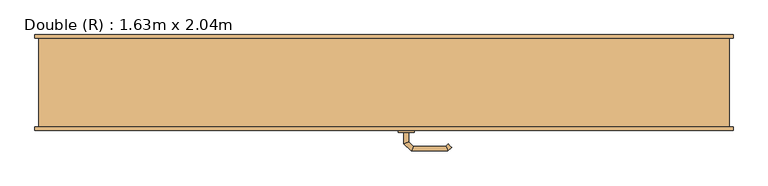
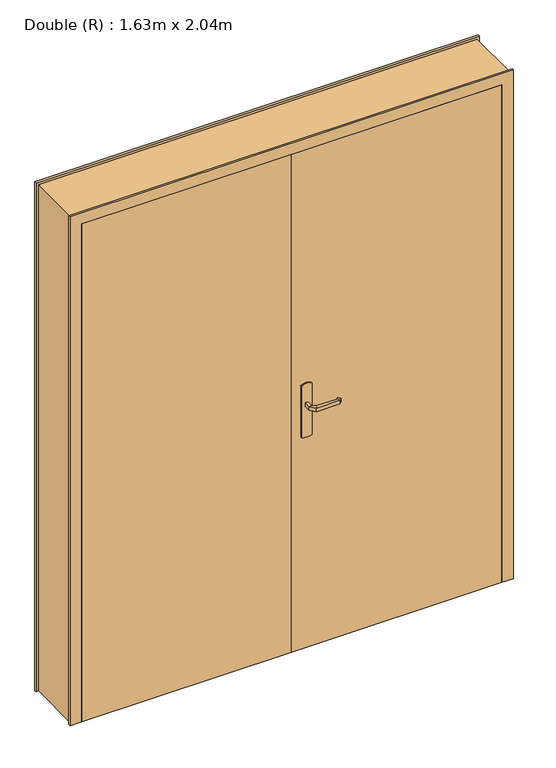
"""IFC4 building model written with IfcOpenShell, lengths in millimetres: door geometry, Double (R) : 1.63m x 2.04m."""

from ifc_helpers import new_model, si_unit, point, frame, frame_2d, origin, origin_with_axes, place, context, project, spatial, polyline, circle_curve, ellipse_curve, trimmed, segment, composite_curve, outline, extrude, faceted_brep, source, transform, mapped, element, save
from ifc_brep_helpers import plane_surface, cylinder_surface, advanced_brep


def double_r_1_63m_x_2_04m_f9d8fe67(model_context):
    return source(origin(), model_context, "Body", "SolidModel", [
        advanced_brep(
        [(61.0, -73.0, 993.0), (61.0, -73.0, 1007.0), (49.0, -73.0, 1007.0), (49.0, -73.0, 993.0), (61.0, -50.5147955, 993.0), (61.0, -50.5147955, 1007.0), (49.0, -45.5442327, 1007.0), (49.0, -45.5442327, 993.0), (72.4852814, -39.0295141, 993.0), (72.4852814, -39.0295141, 1007.0), (67.5147186, -27.0295141, 1007.0), (67.5147186, -27.0295141, 993.0), (152.5605023, -39.0295141, 993.0), (152.5605023, -39.0295141, 1007.0), (157.531065, -27.0295141, 1007.0), (157.531065, -27.0295141, 993.0), (157.8742108, -44.3432226, 993.0), (166.3594922, -35.8579412, 993.0), (166.3594922, -35.8579412, 1007.0), (157.8742108, -44.3432226, 1007.0)],
        [
            (0, 1),
            (1, 2, circle_curve(frame((55.0, -73.0, 986.9542278), z_axis=(0.0, -1.0, 0.0), x_axis=(-1.0, 0.0, 0.0)), 20.9244589)),
            (2, 3),
            (3, 0, circle_curve(frame((55.0, -73.0, 1013.0457722), z_axis=(0.0, -1.0, 0.0), x_axis=(-1.0, 0.0, 0.0)), 20.9244589)),
            (0, 4),
            (4, 5),
            (5, 1),
            (5, 6, ellipse_curve(frame((55.0, -48.0295141, 986.9542278), z_axis=(-0.38268343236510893, -0.9238795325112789, 0.0), x_axis=(0.9238795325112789, -0.3826834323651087, 0.0)), 22.6484711, 20.9244589)),
            (6, 2),
            (6, 7),
            (7, 3),
            (7, 4, ellipse_curve(frame((55.0, -48.0295141, 1013.0457722), z_axis=(-0.38268343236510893, -0.9238795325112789, 0.0), x_axis=(0.9238795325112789, -0.3826834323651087, 0.0)), 22.6484711, 20.9244589)),
            (4, 8),
            (8, 9),
            (9, 5),
            (9, 10, ellipse_curve(frame((70.0, -33.0295141, 986.9542278), z_axis=(-0.9238795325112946, -0.38268343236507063, 0.0), x_axis=(0.3826834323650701, -0.9238795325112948, 0.0)), 22.6484711, 20.9244589)),
            (10, 6),
            (10, 11),
            (11, 7),
            (11, 8, ellipse_curve(frame((70.0, -33.0295141, 1013.0457722), z_axis=(-0.9238795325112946, -0.38268343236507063, 0.0), x_axis=(0.3826834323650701, -0.9238795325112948, 0.0)), 22.6484711, 20.9244589)),
            (8, 12),
            (12, 13),
            (13, 9),
            (13, 14, ellipse_curve(frame((155.0457837, -33.0295141, 986.9542278), z_axis=(-0.9238795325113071, 0.38268343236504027, 0.0), x_axis=(-0.38268343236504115, -0.9238795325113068, 0.0)), 22.6484711, 20.9244589)),
            (14, 10),
            (14, 15),
            (15, 11),
            (15, 12, ellipse_curve(frame((155.0457837, -33.0295141, 1013.0457722), z_axis=(-0.9238795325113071, 0.38268343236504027, 0.0), x_axis=(-0.38268343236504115, -0.9238795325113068, 0.0)), 22.6484711, 20.9244589)),
            (16, 17, circle_curve(frame((162.1168515, -40.1005819, 1013.0457722), z_axis=(0.7071067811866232, -0.7071067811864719, 0.0), x_axis=(0.7071067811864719, 0.7071067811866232, 0.0)), 20.9244589)),
            (17, 18),
            (18, 19, circle_curve(frame((162.1168515, -40.1005819, 986.9542278), z_axis=(0.7071067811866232, -0.7071067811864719, 0.0), x_axis=(0.7071067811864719, 0.7071067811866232, 0.0)), 20.9244589)),
            (19, 16),
            (12, 16),
            (19, 13),
            (18, 14),
            (17, 15),
        ],
        [
            plane_surface(frame((45.7804555, -73.0, 1000.0), z_axis=(0.0, -1.0, 0.0), x_axis=(0.0, 0.0, 1.0))),
            plane_surface(frame((61.0, -73.0, 993.0), z_axis=(1.0, 0.0, 0.0), x_axis=(0.0, 1.0, 0.0))),
            cylinder_surface(frame((55.0, -73.0, 986.9542278), z_axis=(0.0, -1.0, 0.0), x_axis=(-1.0, 0.0, 0.0)), 20.9244589),
            plane_surface(frame((49.0, -73.0, 1007.0), z_axis=(-1.0, 0.0, 0.0), x_axis=(0.0, 1.0, 0.0))),
            cylinder_surface(frame((55.0, -73.0, 1013.0457722), z_axis=(0.0, -1.0, 0.0), x_axis=(-1.0, 0.0, 0.0)), 20.9244589),
            plane_surface(frame((61.0, -50.5147955, 993.0), z_axis=(0.707106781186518, -0.707106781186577, 0.0), x_axis=(0.707106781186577, 0.707106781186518, 0.0))),
            cylinder_surface(frame((55.0, -48.0295141, 986.9542278), z_axis=(-0.7071067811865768, -0.7071067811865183, 0.0), x_axis=(-0.7071067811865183, 0.7071067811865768, 0.0)), 20.9244589),
            plane_surface(frame((49.0, -45.5442327, 1007.0), z_axis=(-0.7071067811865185, 0.7071067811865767, 0.0), x_axis=(0.7071067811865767, 0.7071067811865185, 0.0))),
            cylinder_surface(frame((55.0, -48.0295141, 1013.0457722), z_axis=(-0.7071067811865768, -0.7071067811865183, 0.0), x_axis=(-0.7071067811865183, 0.7071067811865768, 0.0)), 20.9244589),
            plane_surface(frame((72.4852814, -39.0295141, 993.0), z_axis=(0.0, -1.0, 0.0), x_axis=(1.0, 0.0, 0.0))),
            cylinder_surface(frame((70.0, -33.0295141, 986.9542278), z_axis=(-1.0, 0.0, 0.0), x_axis=(0.0, 1.0, 0.0)), 20.9244589),
            plane_surface(frame((67.5147186, -27.0295141, 1007.0), z_axis=(0.0, 1.0, 0.0), x_axis=(1.0, 0.0, 0.0))),
            cylinder_surface(frame((70.0, -33.0295141, 1013.0457722), z_axis=(-1.0, 0.0, 0.0), x_axis=(0.0, 1.0, 0.0)), 20.9244589),
            plane_surface(frame((162.1168515, -40.1005819, 990.7804555), z_axis=(0.7071067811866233, -0.7071067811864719, 0.0), x_axis=(0.7071067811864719, 0.7071067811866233, 0.0))),
            plane_surface(frame((152.5605023, -39.0295141, 993.0), z_axis=(-0.707106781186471, -0.7071067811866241, 0.0), x_axis=(0.7071067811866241, -0.707106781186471, 0.0))),
            cylinder_surface(frame((155.0457837, -33.0295141, 986.9542278), z_axis=(-0.7071067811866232, 0.7071067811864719, 0.0), x_axis=(0.7071067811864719, 0.7071067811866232, 0.0)), 20.9244589),
            plane_surface(frame((157.531065, -27.0295141, 1007.0), z_axis=(0.7071067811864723, 0.7071067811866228, 0.0), x_axis=(0.7071067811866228, -0.7071067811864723, 0.0))),
            cylinder_surface(frame((155.0457837, -33.0295141, 1013.0457722), z_axis=(-0.7071067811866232, 0.7071067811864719, 0.0), x_axis=(0.7071067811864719, 0.7071067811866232, 0.0)), 20.9244589),
        ],
        [
            (0, [[1, 2, 3, 4]]),
            (1, [[-1, 5, 6, 7]]),
            (2, [[-2, -7, 8, 9]]),
            (3, [[-3, -9, 10, 11]]),
            (4, [[-4, -11, 12, -5]]),
            (5, [[-6, 13, 14, 15]]),
            (6, [[-8, -15, 16, 17]]),
            (7, [[-10, -17, 18, 19]]),
            (8, [[-12, -19, 20, -13]]),
            (9, [[-14, 21, 22, 23]]),
            (10, [[-16, -23, 24, 25]]),
            (11, [[-18, -25, 26, 27]]),
            (12, [[-20, -27, 28, -21]]),
            (13, [[29, 30, 31, 32]]),
            (14, [[-22, 33, -32, 34]]),
            (15, [[-24, -34, -31, 35]]),
            (16, [[-26, -35, -30, 36]]),
            (17, [[-28, -36, -29, -33]]),
        ],
    ),
        advanced_brep(
        [(49.0, -123.0, 1007.0), (61.0, -123.0, 1007.0), (61.0, -123.0, 993.0), (49.0, -123.0, 993.0), (49.0, -150.6509507, 1007.0), (61.0, -145.680388, 1007.0), (61.0, -145.680388, 993.0), (49.0, -150.6509507, 993.0), (67.37721, -169.0281607, 1007.0), (72.3477727, -157.0281607, 1007.0), (72.3477727, -157.0281607, 993.0), (67.37721, -169.0281607, 993.0), (157.503922, -169.0281607, 1007.0), (152.5333592, -157.0281607, 1007.0), (152.5333592, -157.0281607, 993.0), (157.503922, -169.0281607, 993.0), (166.3323491, -160.1997336, 1007.0), (166.3323491, -160.1997336, 993.0), (157.8470677, -151.7144522, 993.0), (157.8470677, -151.7144522, 1007.0)],
        [
            (0, 1, circle_curve(frame((55.0, -123.0, 986.9542278), z_axis=(0.0, 1.0, 0.0), x_axis=(1.0, 0.0, 0.0)), 20.9244589)),
            (1, 2),
            (2, 3, circle_curve(frame((55.0, -123.0, 1013.0457722), z_axis=(0.0, 1.0, 0.0), x_axis=(1.0, 0.0, 0.0)), 20.9244589)),
            (3, 0),
            (0, 4),
            (4, 5, ellipse_curve(frame((55.0, -148.1656693, 986.9542278), z_axis=(-0.3826834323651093, 0.9238795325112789, 0.0), x_axis=(0.9238795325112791, 0.38268343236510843, 0.0)), 22.6484711, 20.9244589)),
            (5, 1),
            (5, 6),
            (6, 2),
            (6, 7, ellipse_curve(frame((55.0, -148.1656693, 1013.0457722), z_axis=(-0.3826834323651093, 0.9238795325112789, 0.0), x_axis=(0.9238795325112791, 0.38268343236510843, 0.0)), 22.6484711, 20.9244589)),
            (7, 3),
            (7, 4),
            (4, 8),
            (8, 9, ellipse_curve(frame((69.8624914, -163.0281607, 986.9542278), z_axis=(-0.9238795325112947, 0.38268343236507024, 0.0), x_axis=(0.3826834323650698, 0.9238795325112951, 0.0)), 22.6484711, 20.9244589)),
            (9, 5),
            (9, 10),
            (10, 6),
            (10, 11, ellipse_curve(frame((69.8624914, -163.0281607, 1013.0457722), z_axis=(-0.9238795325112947, 0.38268343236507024, 0.0), x_axis=(0.3826834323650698, 0.9238795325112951, 0.0)), 22.6484711, 20.9244589)),
            (11, 7),
            (11, 8),
            (8, 12),
            (12, 13, ellipse_curve(frame((155.0186406, -163.0281607, 986.9542278), z_axis=(-0.9238795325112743, -0.3826834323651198, 0.0), x_axis=(-0.38268343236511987, 0.9238795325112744, 0.0)), 22.6484711, 20.9244589)),
            (13, 9),
            (13, 14),
            (14, 10),
            (14, 15, ellipse_curve(frame((155.0186406, -163.0281607, 1013.0457722), z_axis=(-0.9238795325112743, -0.3826834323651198, 0.0), x_axis=(-0.38268343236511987, 0.9238795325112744, 0.0)), 22.6484711, 20.9244589)),
            (15, 11),
            (15, 12),
            (16, 17),
            (17, 18, circle_curve(frame((162.0897084, -155.9570929, 1013.0457722), z_axis=(0.7071067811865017, 0.7071067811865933, 0.0), x_axis=(-0.7071067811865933, 0.7071067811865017, 0.0)), 20.9244589)),
            (18, 19),
            (19, 16, circle_curve(frame((162.0897084, -155.9570929, 986.9542278), z_axis=(0.7071067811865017, 0.7071067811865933, 0.0), x_axis=(-0.7071067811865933, 0.7071067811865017, 0.0)), 20.9244589)),
            (12, 16),
            (19, 13),
            (18, 14),
            (17, 15),
        ],
        [
            plane_surface(frame((45.7804555, -123.0, 1000.0), z_axis=(0.0, 1.0, 0.0), x_axis=(0.0, 0.0, -1.0))),
            cylinder_surface(frame((55.0, -123.0, 986.9542278), z_axis=(0.0, 1.0, 0.0), x_axis=(1.0, 0.0, 0.0)), 20.9244589),
            plane_surface(frame((61.0, -123.0, 1007.0), z_axis=(1.0, 0.0, 0.0), x_axis=(0.0, -1.0, 0.0))),
            cylinder_surface(frame((55.0, -123.0, 1013.0457722), z_axis=(0.0, 1.0, 0.0), x_axis=(1.0, 0.0, 0.0)), 20.9244589),
            plane_surface(frame((49.0, -123.0, 993.0), z_axis=(-1.0, 0.0, 0.0), x_axis=(0.0, -1.0, 0.0))),
            cylinder_surface(frame((55.0, -148.1656693, 986.9542278), z_axis=(-0.7071067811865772, 0.7071067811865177, 0.0), x_axis=(0.7071067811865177, 0.7071067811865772, 0.0)), 20.9244589),
            plane_surface(frame((61.0, -145.680388, 1007.0), z_axis=(0.7071067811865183, 0.7071067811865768, 0.0), x_axis=(0.7071067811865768, -0.7071067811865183, 0.0))),
            cylinder_surface(frame((55.0, -148.1656693, 1013.0457722), z_axis=(-0.7071067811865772, 0.7071067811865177, 0.0), x_axis=(0.7071067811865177, 0.7071067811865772, 0.0)), 20.9244589),
            plane_surface(frame((49.0, -150.6509507, 993.0), z_axis=(-0.707106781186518, -0.707106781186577, 0.0), x_axis=(0.707106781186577, -0.707106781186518, 0.0))),
            cylinder_surface(frame((69.8624914, -163.0281607, 986.9542278), z_axis=(-1.0, 0.0, 0.0), x_axis=(0.0, 1.0, 0.0)), 20.9244589),
            plane_surface(frame((72.3477727, -157.0281607, 1007.0), z_axis=(0.0, 1.0, 0.0), x_axis=(1.0, 0.0, 0.0))),
            cylinder_surface(frame((69.8624914, -163.0281607, 1013.0457722), z_axis=(-1.0, 0.0, 0.0), x_axis=(0.0, 1.0, 0.0)), 20.9244589),
            plane_surface(frame((67.37721, -169.0281607, 993.0), z_axis=(0.0, -1.0, 0.0), x_axis=(1.0, 0.0, 0.0))),
            plane_surface(frame((162.0897084, -155.9570929, 1009.2195445), z_axis=(0.7071067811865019, 0.7071067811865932, 0.0), x_axis=(0.7071067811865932, -0.7071067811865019, 0.0))),
            cylinder_surface(frame((155.0186406, -163.0281607, 986.9542278), z_axis=(-0.7071067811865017, -0.7071067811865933, 0.0), x_axis=(-0.7071067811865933, 0.7071067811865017, 0.0)), 20.9244589),
            plane_surface(frame((152.5333592, -157.0281607, 1007.0), z_axis=(-0.7071067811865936, 0.7071067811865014, 0.0), x_axis=(0.7071067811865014, 0.7071067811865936, 0.0))),
            cylinder_surface(frame((155.0186406, -163.0281607, 1013.0457722), z_axis=(-0.7071067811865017, -0.7071067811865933, 0.0), x_axis=(-0.7071067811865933, 0.7071067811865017, 0.0)), 20.9244589),
            plane_surface(frame((157.503922, -169.0281607, 993.0), z_axis=(0.707106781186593, -0.7071067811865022, 0.0), x_axis=(0.7071067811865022, 0.707106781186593, 0.0))),
        ],
        [
            (0, [[1, 2, 3, 4]]),
            (1, [[-1, 5, 6, 7]]),
            (2, [[-2, -7, 8, 9]]),
            (3, [[-3, -9, 10, 11]]),
            (4, [[-4, -11, 12, -5]]),
            (5, [[-6, 13, 14, 15]]),
            (6, [[-8, -15, 16, 17]]),
            (7, [[-10, -17, 18, 19]]),
            (8, [[-12, -19, 20, -13]]),
            (9, [[-14, 21, 22, 23]]),
            (10, [[-16, -23, 24, 25]]),
            (11, [[-18, -25, 26, 27]]),
            (12, [[-20, -27, 28, -21]]),
            (13, [[29, 30, 31, 32]]),
            (14, [[-22, 33, -32, 34]]),
            (15, [[-24, -34, -31, 35]]),
            (16, [[-26, -35, -30, 36]]),
            (17, [[-28, -36, -29, -33]]),
        ],
    ),
        extrude(outline(composite_curve([segment(trimmed(circle_curve(frame_2d((1045.3589838, 55.0)), 40.0), [point((1080.0, 75.0))], [point((1080.0, 35.0))], False, "CARTESIAN"), True, "CONTINUOUS"), segment(polyline([(1080.0, 35.0), (870.0, 35.0)]), True, "CONTINUOUS"), segment(trimmed(circle_curve(frame_2d((904.6410162, 55.0)), 40.0), [point((870.0, 35.0))], [point((870.0, 75.0))], False, "CARTESIAN"), True, "CONTINUOUS"), segment(polyline([(870.0, 75.0), (1080.0, 75.0)]), True, "CONTINUOUS")], self_intersect=False)), frame((0.0, -78.0, 0.0), z_axis=(0.0, 1.0, 0.0), x_axis=(0.0, 0.0, 1.0)), (0.0, 0.0, 1.0), 5.0),
        extrude(outline(composite_curve([segment(trimmed(circle_curve(frame_2d((904.6410162, 55.0)), 40.0), [point((870.0, 35.0))], [point((870.0, 75.0))], False, "CARTESIAN"), True, "CONTINUOUS"), segment(polyline([(870.0, 75.0), (1080.0, 75.0)]), True, "CONTINUOUS"), segment(trimmed(circle_curve(frame_2d((1045.3589838, 55.0)), 40.0), [point((1080.0, 75.0))], [point((1080.0, 35.0))], False, "CARTESIAN"), True, "CONTINUOUS"), segment(polyline([(1080.0, 35.0), (870.0, 35.0)]), True, "CONTINUOUS")], self_intersect=False)), frame((0.0, -123.0, 0.0), z_axis=(0.0, 1.0, 0.0), x_axis=(0.0, 0.0, 1.0)), (0.0, 0.0, 1.0), 5.0),
        faceted_brep([(-850.0, -110.0, 0.0), (-850.0, 110.0, 0.0), (-860.0, 110.0, 0.0), (-860.0, 118.0, 0.0), (-800.0, 118.0, 0.0), (-800.0, -78.0, 0.0), (-815.0, -78.0, 0.0), (-815.0, -118.0, 0.0), (-860.0, -118.0, 0.0), (-860.0, -110.0, 0.0), (-850.0, -110.0, 2075.0), (-850.0, 110.0, 2075.0), (850.0, 110.0, 2075.0), (850.0, 110.0, 0.0), (860.0, 110.0, 0.0), (860.0, 110.0, 2085.0), (-860.0, 110.0, 2085.0), (-860.0, 118.0, 2085.0), (860.0, 118.0, 2085.0), (860.0, 118.0, 0.0), (800.0, 118.0, 0.0), (800.0, 118.0, 2025.0), (-800.0, 118.0, 2025.0), (-800.0, -78.0, 2025.0), (800.0, -78.0, 2025.0), (800.0, -78.0, 0.0), (815.0, -78.0, 0.0), (815.0, -78.0, 2040.0), (-815.0, -78.0, 2040.0), (-815.0, -118.0, 2040.0), (815.0, -118.0, 2040.0), (815.0, -118.0, 0.0), (860.0, -118.0, 0.0), (860.0, -118.0, 2085.0), (-860.0, -118.0, 2085.0), (-860.0, -110.0, 2085.0), (860.0, -110.0, 2085.0), (860.0, -110.0, 0.0), (850.0, -110.0, 0.0), (850.0, -110.0, 2075.0)], [[[0, 1, 2, 3, 4, 5, 6, 7, 8, 9]], [[1, 0, 10, 11]], [[2, 1, 11, 12, 13, 14, 15, 16]], [[3, 2, 16, 17]], [[4, 3, 17, 18, 19, 20, 21, 22]], [[5, 4, 22, 23]], [[6, 5, 23, 24, 25, 26, 27, 28]], [[7, 6, 28, 29]], [[8, 7, 29, 30, 31, 32, 33, 34]], [[9, 8, 34, 35]], [[0, 9, 35, 36, 37, 38, 39, 10]], [[12, 39, 38, 13]], [[38, 37, 32, 31, 26, 25, 20, 19, 14, 13]], [[18, 15, 14, 19]], [[24, 21, 20, 25]], [[30, 27, 26, 31]], [[36, 33, 32, 37]], [[11, 10, 39, 12]], [[17, 16, 15, 18]], [[23, 22, 21, 24]], [[29, 28, 27, 30]], [[35, 34, 33, 36]]]),
        extrude(outline(polyline([(815.0, -118.0), (0.0, -118.0), (0.0, -78.0), (815.0, -78.0), (815.0, -118.0)])), origin_with_axes(), (0.0, 0.0, 1.0), 2040.0),
        extrude(outline(polyline([(0.0, -118.0), (-815.0, -118.0), (-815.0, -78.0), (0.0, -78.0), (0.0, -118.0)])), origin_with_axes(), (0.0, 0.0, 1.0), 2040.0),
    ])


if __name__ == "__main__":
    model = new_model("IFC4")
    model_context = context("Model", 3, world=origin())
    ifc_project = project(units=[si_unit("LENGTHUNIT", "METRE", prefix="MILLI")], contexts=[model_context])
    site = spatial("IfcSite", under=ifc_project)
    building = spatial("IfcBuilding", under=site)
    placement = place(None, origin())
    double_r_1_63m_x_2_04m_shape = double_r_1_63m_x_2_04m_f9d8fe67(model_context)
    element("IfcDoor", 1, ObjectType="Double (R) : 1.63m x 2.04m", at=placement, inside=building, context=model_context, shape_type="MappedRepresentation", body=[
        mapped(double_r_1_63m_x_2_04m_shape, transform((0.0, 0.0, 0.0), x_axis=(1.0, 0.0, 0.0), y_axis=(0.0, 1.0, 0.0), z_axis=(0.0, 0.0, 1.0))),
    ])
    save(model, "model.ifc")
